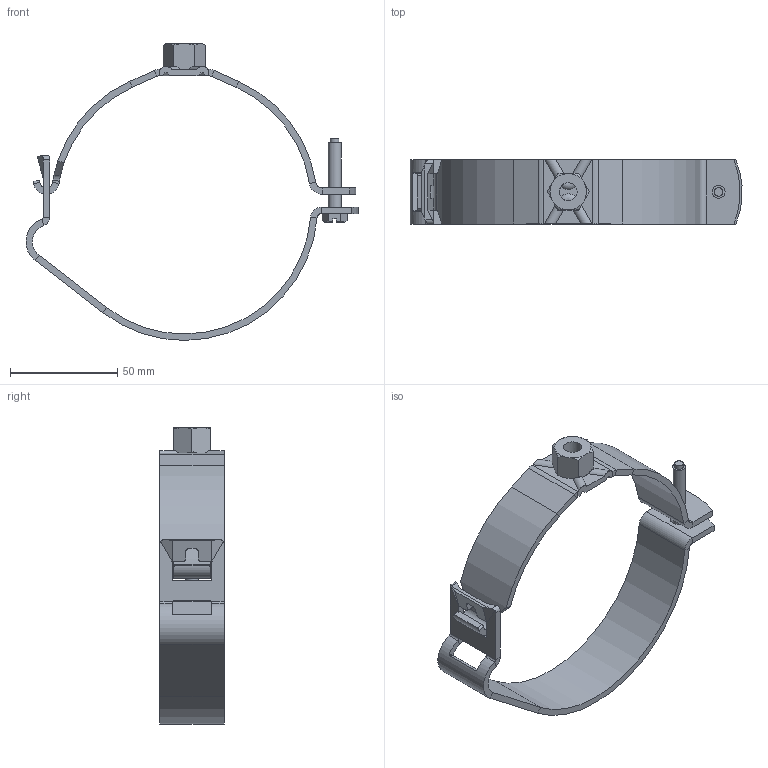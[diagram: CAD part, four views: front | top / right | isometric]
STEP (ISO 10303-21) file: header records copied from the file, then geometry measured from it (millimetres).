
FILE_DESCRIPTION(/* description */ (''),/* implementation_level */ '2;1');
FILE_NAME(/* name */ 'C:\Planerdaten\Export PLA\367.843.00.2\stp\367843.stp',/* time_stamp */ '2020-02-28T04:58:21-08:00',/* author */ ('JANAN'),/* organization */ (''),/* preprocessor_version */ 'ST-DEVELOPER v16.13',/* originating_system */ 'Autodesk Inventor 2018',/* authorisation */ '');
FILE_SCHEMA (('AUTOMOTIVE_DESIGN { 1 0 10303 214 3 1 1 }'));
Length unit declared in the file: millimetre
Products named in the file (4): Rohrschelle d110/118 M10 verstellbar; 38098962_CPP_000_00___Rohrschelle UnT St d110 verz; 30055010_CPP_000_01___Rohrschelle ObT St d110 M10 verz; 30054957_CPP_000_01___Sechskantschraube M6x35-4.8 verzinkt
Assembly tree (3 placements, depth 2):
  Rohrschelle d110/118 M10 verstellbar
    38098962_CPP_000_00___Rohrschelle UnT St d110 verz
    30055010_CPP_000_01___Rohrschelle ObT St d110 M10 verz
    30054957_CPP_000_01___Sechskantschraube M6x35-4.8 verzinkt
Bounding box: 154.55 x 30 x 138.2 mm (x, y, z)
Volume: 41968.1 mm3; surface area: 31231.3 mm2
Topology: 3 solids, 3 shells, 214 faces, 531 edges, 322 vertices
Faces by surface type: plane 134, cylinder 48, cone 22, bspline 8, torus 2
Full cylindrical faces by diameter (mm): 4 x1, 4.917 x1, 6 x1, 8.376 x1
Entity records: 6768 total; most frequent: CARTESIAN_POINT 1639, ORIENTED_EDGE 1052, DIRECTION 1043, EDGE_CURVE 526, AXIS2_PLACEMENT_3D 362, VERTEX_POINT 321, LINE 319, VECTOR 319
